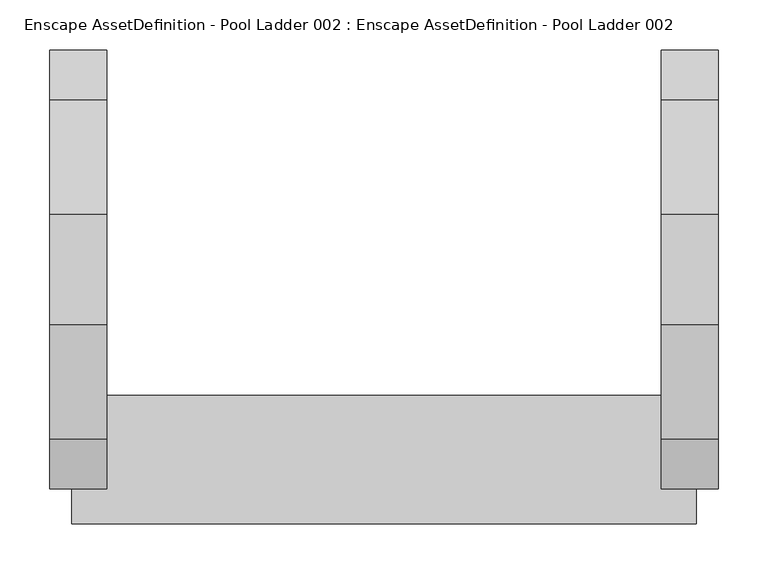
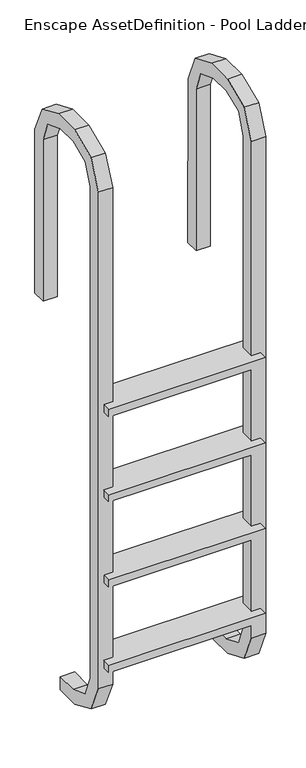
"""IFC4 building model written with IfcOpenShell, lengths in millimetres: geographic element geometry, Enscape AssetDefinition - Pool Ladder 002 : Enscape AssetDefinition - Pool Ladder 002."""

import ifcopenshell
import ifcopenshell.guid

model = None  # the IFC model being written
_history = None  # IfcOwnerHistory: only IFC2X3 demands one
_inside = {}  # id of a spatial element -> (the spatial element, [elements in it])
_under = {}  # id of a project, library or spatial element -> (it, [spatial elements below it])
_declared = {}  # id of a project -> (the project, [libraries it declares])
_typed = {}  # id of a type object -> (the type object, [elements of that type])
_made_of = {}  # id of a material, layer set ... -> (it, [elements and type objects made of it])


def new_model(schema):
    """Start an empty IFC model of exactly this schema.

    Asked for "IFC4X3", IfcOpenShell would pick the latest addendum, in which some entities
    have other attributes; the version numbers below select the first issue.
    IFC2X3 requires an IfcOwnerHistory on every rooted entity: one is made here for all.
    """
    global model, _history
    if schema == "IFC4X3":
        model = ifcopenshell.file(schema_version=(4, 3, 0, 0))
    else:
        model = ifcopenshell.file(schema=schema)
    _inside.clear()
    _under.clear()
    _declared.clear()
    _typed.clear()
    _made_of.clear()
    _history = None
    if model.schema == "IFC2X3":
        org = make("IfcOrganization", Name="unknown")
        user = make(
            "IfcPersonAndOrganization",
            ThePerson=make("IfcPerson", FamilyName="unknown"),
            TheOrganization=org,
        )
        app = make(
            "IfcApplication",
            ApplicationDeveloper=org,
            Version="unknown",
            ApplicationFullName="unknown",
            ApplicationIdentifier="unknown",
        )
        _history = make(
            "IfcOwnerHistory",
            OwningUser=user,
            OwningApplication=app,
            ChangeAction="ADDED",
            CreationDate=0,
        )
    return model


def make(cls, **values):
    """One entity of the class cls with the attributes given. An attribute that is None is left unset."""
    return model.create_entity(
        cls, **{name: value for name, value in values.items() if value is not None}
    )


def rooted(cls, **values):
    """An entity with a GlobalId (a new one), such as an element, a storey or a relation."""
    return make(cls, GlobalId=ifcopenshell.guid.new(), OwnerHistory=_history, **values)


def si_unit(unit_type, name, prefix=None):
    """IfcSIUnit, for example si_unit("LENGTHUNIT", "METRE", prefix="MILLI")."""
    return make("IfcSIUnit", UnitType=unit_type, Prefix=prefix, Name=name)


def assignment(units):
    """IfcUnitAssignment: the units of a project."""
    return None if units is None else make("IfcUnitAssignment", Units=units)


def point(xyz):
    """IfcCartesianPoint."""
    return None if xyz is None else make("IfcCartesianPoint", Coordinates=xyz)


def direction(xyz):
    """IfcDirection."""
    return None if xyz is None else make("IfcDirection", DirectionRatios=xyz)


def frame(location, z_axis=None, x_axis=None):
    """IfcAxis2Placement3D, a coordinate frame: its origin and axes. An axis left out is left unset."""
    return make(
        "IfcAxis2Placement3D",
        Location=point(location),
        Axis=direction(z_axis),
        RefDirection=direction(x_axis),
    )


def origin():
    """The frame at (0, 0, 0) with its axes left unset."""
    return frame((0.0, 0.0, 0.0))


def place(relative_to, where):
    """IfcLocalPlacement: puts the frame where relative to a parent placement (None: the world)."""
    return make(
        "IfcLocalPlacement", PlacementRelTo=relative_to, RelativePlacement=where
    )


def context(
    kind, dimensions, precision=None, world=None, true_north=None, identifier=None
):
    """IfcGeometricRepresentationContext, for example the 3D "Model" context."""
    return make(
        "IfcGeometricRepresentationContext",
        ContextIdentifier=identifier,
        ContextType=kind,
        CoordinateSpaceDimension=dimensions,
        Precision=precision,
        WorldCoordinateSystem=world,
        TrueNorth=true_north,
    )


def project(units=None, contexts=None):
    """IfcProject with its units and contexts."""
    return rooted(
        "IfcProject",
        Name="project",
        RepresentationContexts=contexts,
        UnitsInContext=assignment(units),
    )


def spatial(cls, under=None, at=None, **own):
    """A site, building, storey or space (cls), placed at a placement, below another one or the project."""
    s = rooted(cls, ObjectPlacement=at, **own)
    if under is not None:
        _under.setdefault(under.id(), (under, []))[1].append(s)
    return s


def point_list(points):
    """IfcCartesianPointList2D or 3D."""
    cls = (
        "IfcCartesianPointList2D" if len(points[0]) == 2 else "IfcCartesianPointList3D"
    )
    return make(cls, CoordList=points)


def triangles(points, corners, closed=None, point_numbers=None):
    """IfcTriangulatedFaceSet: each triangle names its three corners, points numbered from 1."""
    return make(
        "IfcTriangulatedFaceSet",
        Coordinates=point_list(points),
        Closed=closed,
        CoordIndex=corners,
        PnIndex=point_numbers,
    )


def shape(context_of_items, identifier, shape_type, items):
    """IfcShapeRepresentation: the items that make up one representation, for example the "Body"."""
    return make(
        "IfcShapeRepresentation",
        ContextOfItems=context_of_items,
        RepresentationIdentifier=identifier,
        RepresentationType=shape_type,
        Items=items,
    )


def source(mapping_origin, context_of_items, identifier, shape_type, items):
    """IfcRepresentationMap: a shape defined once, which mapped items show again and again."""
    return make(
        "IfcRepresentationMap",
        MappingOrigin=mapping_origin,
        MappedRepresentation=shape(context_of_items, identifier, shape_type, items),
    )


def transform(
    local_origin,
    x_axis=None,
    y_axis=None,
    z_axis=None,
    scale=None,
    scale2=None,
    scale3=None,
    uniform=True,
):
    """IfcCartesianTransformationOperator3D, or its non-uniform kind. x_axis, y_axis, z_axis: its Axis1, 2, 3."""
    if uniform:
        return make(
            "IfcCartesianTransformationOperator3D",
            Axis1=direction(x_axis),
            Axis2=direction(y_axis),
            LocalOrigin=point(local_origin),
            Scale=scale,
            Axis3=direction(z_axis),
        )
    return make(
        "IfcCartesianTransformationOperator3DnonUniform",
        Axis1=direction(x_axis),
        Axis2=direction(y_axis),
        LocalOrigin=point(local_origin),
        Scale=scale,
        Axis3=direction(z_axis),
        Scale2=scale2,
        Scale3=scale3,
    )


def mapped(mapping_source, mapping_target):
    """IfcMappedItem: shows the shape of a source again, moved by a transform."""
    return make(
        "IfcMappedItem", MappingSource=mapping_source, MappingTarget=mapping_target
    )


def made_of(thing, what):
    """Note that an element or type object is made of a material, layer set ...; save() writes the relation."""
    if what is not None:
        _made_of.setdefault(what.id(), (what, []))[1].append(thing)
    return thing


def element(
    cls,
    number,
    at=None,
    inside=None,
    cuts=None,
    type_object=None,
    material=None,
    context=None,
    identifier="Body",
    shape_type=None,
    held_by="IfcProductDefinitionShape",
    body=None,
    shapes=None,
    **own,
):
    """One element of the class cls, such as IfcWall. Its Tag is "e" and its number.

    at: its placement. inside: the storey or other place that contains it. cuts: it is an
    opening in that element (IfcRelVoidsElement). A single representation is given by context,
    identifier, shape_type and body (its items); several are given by shapes. held_by: the class
    of the entity that holds the representations. save() writes the other relations.
    """
    e = rooted(cls, Tag="e%d" % number, ObjectPlacement=at, **own)
    if body is not None:
        shapes = [shape(context, identifier, shape_type, body)]
    if shapes is not None:
        e.Representation = make(held_by, Representations=shapes)
    if inside is not None:
        _inside.setdefault(inside.id(), (inside, []))[1].append(e)
    if cuts is not None:
        rooted(
            "IfcRelVoidsElement", RelatingBuildingElement=cuts, RelatedOpeningElement=e
        )
    if type_object is not None:
        _typed.setdefault(type_object.id(), (type_object, []))[1].append(e)
    return made_of(e, material)


def aggregate(whole, parts):
    """IfcRelAggregates: a whole, such as a stair, and the parts it consists of."""
    return rooted("IfcRelAggregates", RelatingObject=whole, RelatedObjects=parts)


def save(model, path):
    """Write the relations noted so far, then the file.

    IfcRelAggregates (storeys below a building ...), IfcRelContainedInSpatialStructure (elements
    in a storey), IfcRelDefinesByType, IfcRelAssociatesMaterial and IfcRelDeclares: one each for
    every whole, place, type object, material and project.
    """
    for whole, parts in _under.values():
        aggregate(whole, parts)
    for where, things in _inside.values():
        rooted(
            "IfcRelContainedInSpatialStructure",
            RelatedElements=things,
            RelatingStructure=where,
        )
    for kind, things in _typed.values():
        rooted("IfcRelDefinesByType", RelatedObjects=things, RelatingType=kind)
    for what, things in _made_of.values():
        rooted("IfcRelAssociatesMaterial", RelatedObjects=things, RelatingMaterial=what)
    for by, libraries in _declared.values():
        rooted("IfcRelDeclares", RelatingContext=by, RelatedDefinitions=libraries)
    model.write(path)


def enscape_assetdefinition_pool_ladder_002_enscape_78e63e01(model_context):
    return source(origin(), model_context, "Body", "Tessellation", [
        triangles([(313.1224935, -449.4657337, -212.3679784), (-313.1220211, -321.0070049, -212.3678876), (313.1224935, -449.4657337, -243.8181118), (-313.1220211, -449.4657337, -243.8181118), (-313.1220211, -449.4657337, -212.3679784), (313.1224935, -321.0070049, -212.3678876), (-313.1220211, -321.0070049, -243.8180028), (313.1224935, -321.0070049, -243.8180028), (313.1224935, -321.0070049, -573.3204557), (-313.1220211, -449.4657337, -573.3205647), (-313.1220211, -449.4656974, -604.7706436), (313.1224935, -449.4656974, -604.7706436), (313.1224935, -321.0070049, -604.7705346), (313.1224935, -449.4657337, -573.3205647), (-313.1220211, -321.0070049, -573.3204557), (-313.1220211, -321.0070049, -604.7705346), (-313.1220211, -449.4657337, -934.2731329), (-313.1220211, -321.0070049, -934.2731329), (313.1224935, -449.4657337, -965.7232481), (313.1224935, -449.4657337, -934.2731329), (313.1224935, -321.0070049, -965.7232481), (313.1224935, -321.0070049, -934.2731329), (-313.1220211, -321.0070049, -965.7232481), (-313.1220211, -449.4657337, -965.7232481), (313.1224935, -321.0070049, -1295.2257374), (-313.1220211, -449.4657337, -1295.2257374), (-313.1220211, -449.4657337, -1326.6757072), (313.1224935, -449.4657337, -1326.6757072), (313.1224935, -449.4657337, -1295.2257374), (-313.1220211, -321.0070049, -1295.2257374), (-313.1220211, -321.0070049, -1326.6757072), (313.1224935, -321.0070049, -1326.6757072), (277.8817666, -150.547415, 803.5342381), (334.7756776, -24.3982655, 809.9276705), (334.7756776, -139.4479744, 859.3349745), (277.8817666, -139.4479744, 859.3349745), (277.8817666, -24.3982655, 809.9276705), (334.7756776, 25.0090817, 694.8779343), (334.7756776, -150.547415, 803.5342381), (277.8817666, -64.6283317, 769.6975679), (277.8817666, -239.1625457, 803.5341654), (277.8817666, -30.7916525, 683.7784664), (334.7756776, -30.7916525, 683.7784664), (334.7756776, -64.6283317, 769.6975679), (334.7756776, 25.5558029, 0.0), (334.7756776, -31.338133, 0.0), (277.8817666, 25.5557825, 0.0), (277.8817666, 25.009059, 694.8779343), (277.8817666, -31.3381512, 0.0), (277.8817666, -250.261959, 859.3348291), (334.7756776, -365.3116771, 809.9275978), (277.8817666, -365.3116771, 809.9275978), (334.7756776, -250.261959, 859.3348291), (334.7756776, -414.7186177, -1408.9073158), (334.7756776, -414.7189811, 694.8777889), (277.8817666, -414.7189811, 694.8777889), (277.8817666, -358.918281, 683.7783937), (277.8817666, -325.0815745, 769.6974953), (277.8817666, -414.7186177, -1408.9073158), (277.8817666, -325.0812112, -1483.7268768), (277.8817666, -358.9179176, -1397.8077026), (334.7756776, -358.9179176, -1397.8077026), (334.7756776, -325.0812112, -1483.7268768), (334.7756776, -250.2615775, -1573.3644287), (277.8817666, -250.2615775, -1573.3644287), (277.8817666, -365.3113137, -1523.956834), (334.7756776, -365.3113137, -1523.956834), (334.7756776, -151.3570949, -1573.3644287), (277.8817666, -151.3570949, -1573.3644287), (277.8817666, -239.1621642, -1517.5634743), (277.8817666, -151.3570949, -1517.5634743), (334.7756776, -239.1621642, -1517.5634743), (334.7756776, -151.3570949, -1517.5634743), (334.7756776, -358.918281, 683.7783937), (334.7756776, -325.0815745, 769.6974953), (334.7756776, -239.1625457, 803.5341654), (-277.8817666, -239.1625457, 803.5341654), (-277.8817666, -139.4479744, 859.3349745), (-277.8817666, -150.547415, 803.5342381), (-277.8817666, -64.6283317, 769.6975679), (-277.8817666, -24.3982655, 809.9276705), (-334.7756776, -24.3982655, 809.9276705), (-334.7756776, -139.4479744, 859.3349745), (-334.7756776, -150.547415, 803.5342381), (-334.7756776, -64.6283317, 769.6975679), (-334.7756776, -239.1625457, 803.5341654), (-277.8817666, -30.7916525, 683.7784664), (-334.7756776, -30.7916525, 683.7784664), (-334.7756776, 25.0090817, 694.8779343), (-334.7756776, 25.5558029, 0.0), (-334.7756776, -31.338133, 0.0), (-277.8817666, 25.5557825, 0.0), (-277.8817666, -31.3381512, 0.0), (-277.8817666, 25.009059, 694.8779343), (-334.7756776, -365.3116771, 809.9275978), (-334.7756776, -325.0815745, 769.6974953), (-334.7756776, -250.261959, 859.3348291), (-277.8817666, -250.261959, 859.3348291), (-334.7756776, -414.7189811, 694.8777889), (-277.8817666, -414.7189811, 694.8777889), (-277.8817666, -325.0815745, 769.6974953), (-277.8817666, -365.3116771, 809.9275978), (-334.7756776, -358.918281, 683.7783937), (-277.8817666, -358.9179176, -1397.8077026), (-277.8817666, -358.918281, 683.7783937), (-334.7756776, -358.9179176, -1397.8077026), (-277.8817666, -414.7186177, -1408.9073158), (-334.7756776, -414.7186177, -1408.9073158), (-334.7756776, -325.0812112, -1483.7268768), (-334.7756776, -250.2615775, -1573.3644287), (-334.7756776, -365.3113137, -1523.956834), (-277.8817666, -250.2615775, -1573.3644287), (-277.8817666, -365.3113137, -1523.956834), (-334.7756776, -239.1621642, -1517.5634743), (-277.8817666, -325.0812112, -1483.7268768), (-334.7756776, -151.3570949, -1517.5634743), (-334.7756776, -151.3570949, -1573.3644287), (-277.8817666, -239.1621642, -1517.5634743), (-277.8817666, -151.3570949, -1517.5634743), (-277.8817666, -151.3570949, -1573.3644287)], [[117, 116, 119], [117, 119, 120], [120, 119, 118], [117, 120, 112], [120, 118, 112], [117, 112, 110], [119, 116, 114], [114, 116, 117], [119, 114, 118], [114, 117, 110], [115, 112, 118], [114, 115, 118], [112, 115, 113], [112, 111, 110], [112, 113, 111], [109, 114, 110], [111, 109, 110], [114, 109, 115], [109, 104, 115], [104, 107, 115], [113, 115, 107], [108, 109, 111], [113, 108, 111], [113, 107, 108], [106, 109, 108], [109, 106, 104], [104, 106, 103], [104, 103, 105], [104, 105, 100], [107, 104, 100], [108, 107, 100], [99, 103, 106], [99, 106, 108], [108, 100, 99], [99, 96, 103], [96, 105, 103], [105, 101, 100], [86, 101, 96], [86, 77, 101], [96, 101, 105], [100, 101, 102], [102, 99, 100], [95, 96, 99], [102, 95, 99], [101, 77, 98], [102, 101, 98], [98, 95, 102], [97, 96, 95], [96, 97, 86], [98, 97, 95], [81, 94, 89], [89, 92, 90], [89, 94, 92], [92, 93, 91], [92, 91, 90], [88, 90, 91], [90, 88, 89], [92, 87, 93], [94, 87, 92], [91, 87, 88], [91, 93, 87], [94, 80, 87], [81, 80, 94], [86, 97, 84], [84, 77, 86], [84, 80, 79], [84, 79, 77], [88, 85, 89], [85, 87, 80], [84, 85, 80], [85, 88, 87], [84, 83, 85], [83, 84, 97], [83, 97, 98], [89, 85, 82], [82, 85, 83], [81, 89, 82], [78, 79, 80], [78, 80, 81], [98, 77, 78], [83, 98, 78], [78, 82, 83], [78, 77, 79], [78, 81, 82], [76, 58, 41], [76, 75, 58], [75, 76, 53], [75, 57, 58], [75, 74, 57], [72, 73, 71], [71, 73, 68], [72, 68, 73], [71, 68, 69], [70, 71, 69], [72, 71, 70], [65, 69, 68], [70, 69, 65], [72, 64, 68], [65, 68, 64], [65, 64, 67], [66, 67, 54], [65, 67, 66], [65, 66, 60], [60, 70, 65], [72, 70, 60], [63, 64, 72], [67, 64, 63], [54, 67, 63], [72, 60, 63], [62, 54, 63], [61, 57, 74], [63, 60, 61], [61, 74, 62], [63, 61, 62], [61, 60, 59], [66, 59, 60], [66, 54, 59], [57, 56, 58], [61, 56, 57], [59, 56, 61], [54, 56, 59], [55, 74, 75], [55, 62, 74], [55, 54, 62], [54, 55, 56], [56, 52, 58], [52, 56, 55], [51, 55, 75], [53, 51, 75], [52, 55, 51], [58, 50, 41], [52, 50, 58], [50, 52, 51], [50, 51, 53], [35, 50, 53], [47, 49, 42], [48, 47, 42], [38, 47, 48], [38, 45, 47], [46, 49, 47], [46, 47, 45], [46, 42, 49], [43, 46, 45], [45, 38, 43], [46, 43, 42], [43, 38, 44], [38, 34, 44], [34, 35, 44], [44, 42, 43], [76, 39, 53], [39, 44, 35], [35, 53, 39], [39, 76, 41], [39, 41, 33], [48, 42, 40], [39, 33, 40], [44, 40, 42], [39, 40, 44], [37, 48, 40], [37, 34, 38], [37, 38, 48], [36, 40, 33], [36, 37, 40], [50, 36, 41], [35, 36, 50], [36, 35, 34], [36, 33, 41], [36, 34, 37], [27, 32, 28], [27, 31, 32], [30, 31, 27], [25, 31, 30], [25, 32, 31], [29, 32, 25], [29, 28, 32], [30, 27, 26], [26, 28, 29], [26, 27, 28], [26, 25, 30], [26, 29, 25], [24, 21, 19], [24, 23, 21], [18, 23, 24], [22, 23, 18], [22, 21, 23], [20, 21, 22], [20, 19, 21], [18, 24, 17], [17, 19, 20], [17, 24, 19], [17, 22, 18], [17, 20, 22], [11, 13, 12], [11, 16, 13], [15, 16, 11], [9, 16, 15], [9, 13, 16], [14, 13, 9], [14, 12, 13], [15, 11, 10], [10, 12, 14], [10, 11, 12], [10, 9, 15], [10, 14, 9], [4, 8, 3], [4, 7, 8], [2, 7, 4], [6, 7, 2], [6, 8, 7], [1, 8, 6], [1, 3, 8], [2, 4, 5], [5, 3, 1], [5, 4, 3], [5, 6, 2], [5, 1, 6]]),
    ])


if __name__ == "__main__":
    model = new_model("IFC4")
    model_context = context("Model", 3, world=origin())
    ifc_project = project(units=[si_unit("LENGTHUNIT", "METRE", prefix="MILLI")], contexts=[model_context])
    site = spatial("IfcSite", under=ifc_project)
    building = spatial("IfcBuilding", under=site)
    placement = place(None, origin())
    enscape_assetdefinition_pool_ladder_002_enscape_shape = enscape_assetdefinition_pool_ladder_002_enscape_78e63e01(model_context)
    element("IfcGeographicElement", 1, ObjectType="Enscape AssetDefinition - Pool Ladder 002 : Enscape AssetDefinition - Pool Ladder 002", at=placement, inside=building, context=model_context, shape_type="MappedRepresentation", body=[
        mapped(enscape_assetdefinition_pool_ladder_002_enscape_shape, transform((0.0, 0.0, 0.0), x_axis=(1.0, 0.0, 0.0), y_axis=(0.0, 1.0, 0.0), z_axis=(0.0, 0.0, 1.0))),
    ])
    save(model, "model.ifc")
